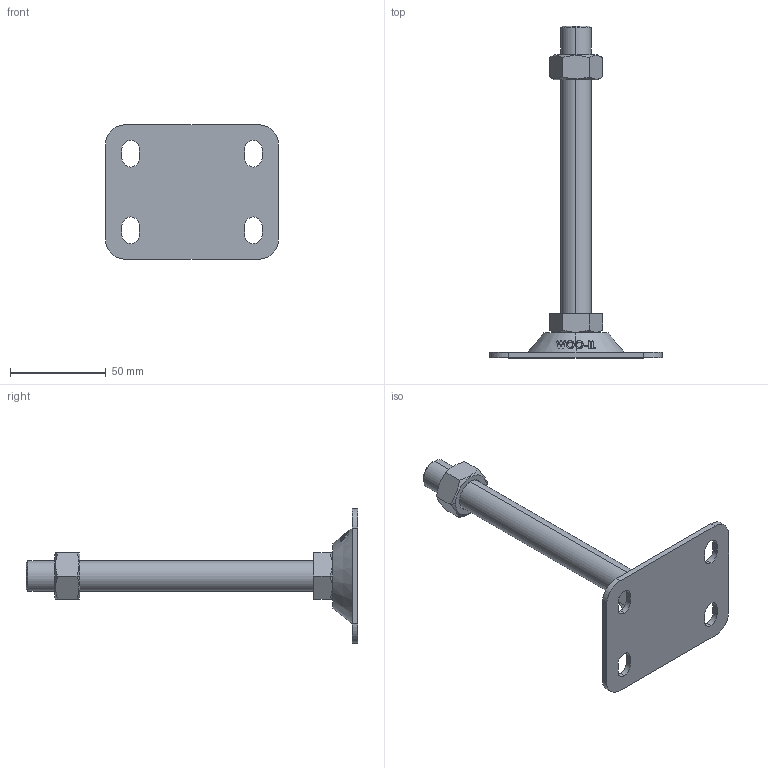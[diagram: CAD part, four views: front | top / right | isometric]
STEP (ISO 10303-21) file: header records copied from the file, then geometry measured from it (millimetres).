
FILE_DESCRIPTION (( 'STEP AP214' ), '1' );
FILE_NAME ('FABL7090-M16-150.step', '2021-03-28T23:51:42', ( '' ), ( '' ), 'SwSTEP 2.0', 'SolidWorks 2019', '' );
FILE_SCHEMA (( 'AUTOMOTIVE_DESIGN' ));
Length unit declared in the file: millimetre
Products named in the file (2): FABL7090-M16-150
Bounding box: 90 x 173 x 70 mm (x, y, z)
Volume: 70186.8 mm3; surface area: 24339.9 mm2
Topology: 2 solids, 2 shells, 146 faces, 384 edges, 252 vertices
Faces by surface type: plane 58, cylinder 48, cone 22, bspline 18
Entity records: 6084 total; most frequent: CARTESIAN_POINT 2656, ORIENTED_EDGE 768, DIRECTION 582, EDGE_CURVE 384, VERTEX_POINT 252, AXIS2_PLACEMENT_3D 210, EDGE_LOOP 166, VECTOR 162
